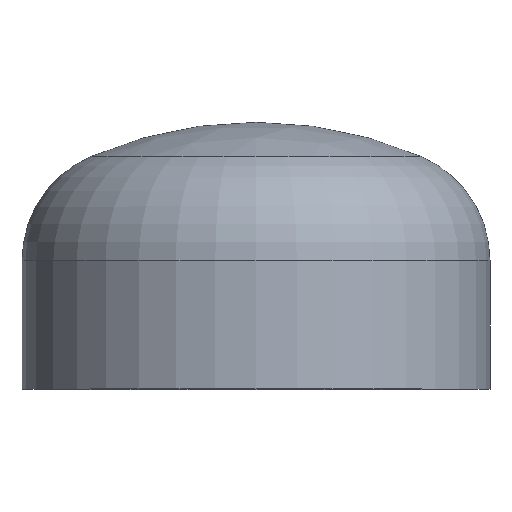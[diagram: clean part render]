
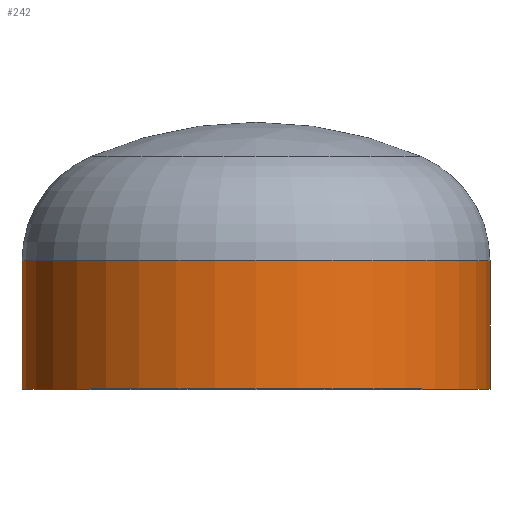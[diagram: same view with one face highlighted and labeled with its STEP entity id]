
A CAD part, top view. The second image highlights one B-rep face of the part: STEP entity #242.
In plain terms, the highlighted cylindrical face has radius 136.5 mm (diameter 273 mm), a partial arc.
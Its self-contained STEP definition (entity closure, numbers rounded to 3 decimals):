
#13 = AXIS2_PLACEMENT_3D ( 'NONE', #168, #406, #340 ) ;
#30 = AXIS2_PLACEMENT_3D ( 'NONE', #222, #290, #408 ) ;
#35 = ORIENTED_EDGE ( 'NONE', *, *, #70, .F. ) ;
#40 = VERTEX_POINT ( 'NONE', #277 ) ;
#48 = LINE ( 'NONE', #220, #366 ) ;
#63 = VERTEX_POINT ( 'NONE', #235 ) ;
#68 = AXIS2_PLACEMENT_3D ( 'NONE', #218, #339, #338 ) ;
#70 = EDGE_CURVE ( 'NONE', #40, #143, #372, .T. ) ;
#72 = EDGE_CURVE ( 'NONE', #143, #158, #304, .T. ) ;
#74 = EDGE_CURVE ( 'NONE', #63, #158, #48, .T. ) ;
#109 = ORIENTED_EDGE ( 'NONE', *, *, #356, .T. ) ;
#114 = CYLINDRICAL_SURFACE ( 'NONE', #30, 136.5 ) ;
#131 = FACE_OUTER_BOUND ( 'NONE', #138, .T. ) ;
#138 = EDGE_LOOP ( 'NONE', ( #109, #223, #156, #35 ) ) ;
#143 = VERTEX_POINT ( 'NONE', #207 ) ;
#156 = ORIENTED_EDGE ( 'NONE', *, *, #72, .F. ) ;
#158 = VERTEX_POINT ( 'NONE', #204 ) ;
#168 = CARTESIAN_POINT ( 'NONE',  ( 0., 75., 0. ) ) ;
#204 = CARTESIAN_POINT ( 'NONE',  ( -136.5, 0., 0. ) ) ;
#207 = CARTESIAN_POINT ( 'NONE',  ( 136.5, 0., 0. ) ) ;
#217 = DIRECTION ( 'NONE',  ( 0., -1., 0. ) ) ;
#218 = CARTESIAN_POINT ( 'NONE',  ( 0., 0., 0. ) ) ;
#220 = CARTESIAN_POINT ( 'NONE',  ( -136.5, 0., 0. ) ) ;
#222 = CARTESIAN_POINT ( 'NONE',  ( 0., 0., 0. ) ) ;
#223 = ORIENTED_EDGE ( 'NONE', *, *, #74, .T. ) ;
#234 = CARTESIAN_POINT ( 'NONE',  ( 136.5, 0., 0. ) ) ;
#235 = CARTESIAN_POINT ( 'NONE',  ( -136.5, 75., 0. ) ) ;
#236 = DIRECTION ( 'NONE',  ( 0., -1., 0. ) ) ;
#241 = VECTOR ( 'NONE', #217, 1000. ) ;
#242 = ADVANCED_FACE ( 'NONE', ( #131 ), #114, .T. ) ;
#251 = CIRCLE ( 'NONE', #13, 136.5 ) ;
#277 = CARTESIAN_POINT ( 'NONE',  ( 136.5, 75., 0. ) ) ;
#290 = DIRECTION ( 'NONE',  ( 0., -1., 0. ) ) ;
#304 = CIRCLE ( 'NONE', #68, 136.5 ) ;
#338 = DIRECTION ( 'NONE',  ( 1., 0., 0. ) ) ;
#339 = DIRECTION ( 'NONE',  ( 0., -1., 0. ) ) ;
#340 = DIRECTION ( 'NONE',  ( 1., 0., 0. ) ) ;
#356 = EDGE_CURVE ( 'NONE', #40, #63, #251, .T. ) ;
#366 = VECTOR ( 'NONE', #236, 1000. ) ;
#372 = LINE ( 'NONE', #234, #241 ) ;
#406 = DIRECTION ( 'NONE',  ( 0., -1., 0. ) ) ;
#408 = DIRECTION ( 'NONE',  ( 1., 0., 0. ) ) ;
